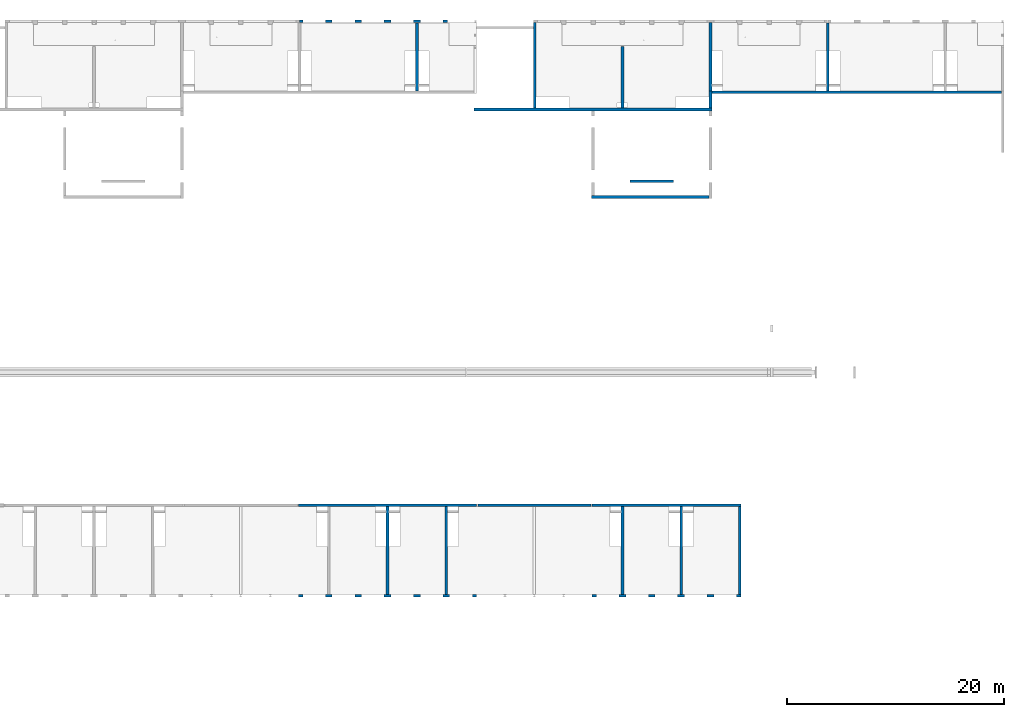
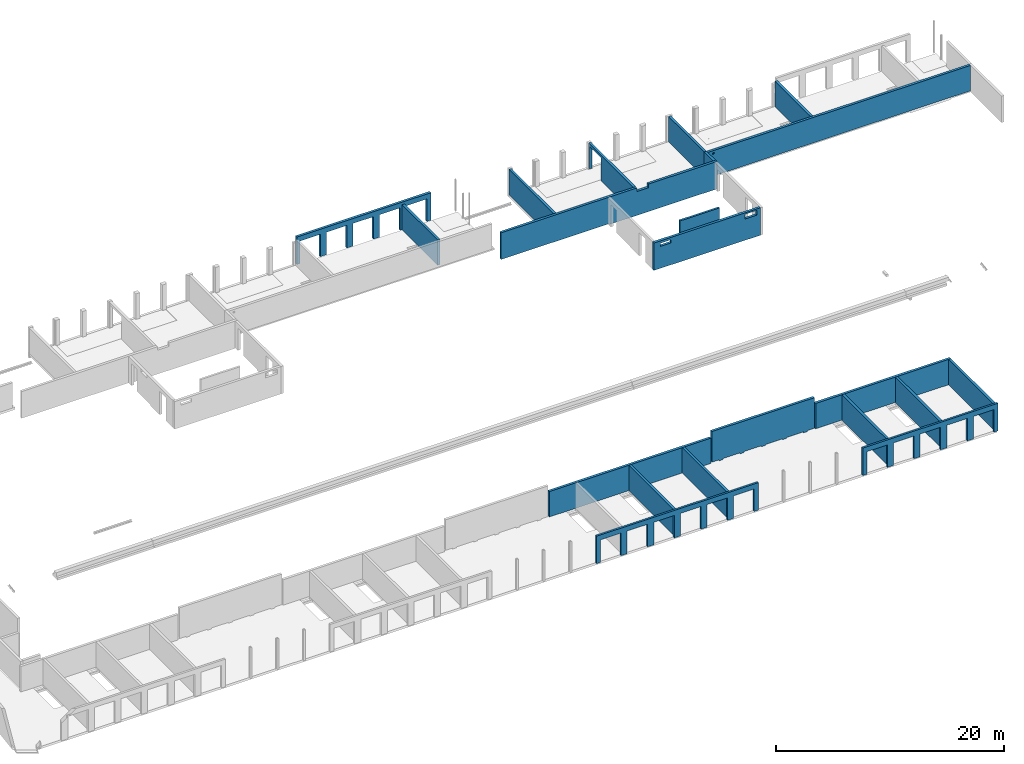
# One storey, part 17 of 22: 21 walls, 31 openings.
"""IFC2X3 building model written with IfcOpenShell, lengths in millimetres."""

from ifc_helpers import new_model, entity, si_unit, converted_unit, derived_unit, direction, frame, frame_2d, origin, origin_2d_with_axis, place, context, subcontext, project, spatial, rectangle, circle, extrude, material, layer, layer_set, layer_usage, type_object, element, save


model = new_model("IFC2X3")

# Units and contexts
model_context = context("Model", 3, precision=0.01, world=origin(), true_north=direction((6.12303176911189e-17, 1.0)))
body_context = subcontext(model_context, "Body", "Model", "MODEL_VIEW")
ifc_project = project(units=[si_unit("LENGTHUNIT", "METRE", prefix="MILLI"), si_unit("AREAUNIT", "SQUARE_METRE"), si_unit("VOLUMEUNIT", "CUBIC_METRE"), converted_unit("PLANEANGLEUNIT", "DEGREE", entity("IfcRatioMeasure", 0.0174532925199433), si_unit("PLANEANGLEUNIT", "RADIAN"), dimensions=[0, 0, 0, 0, 0, 0, 0]), si_unit("MASSUNIT", "GRAM", prefix="KILO"), derived_unit("MASSDENSITYUNIT", [(si_unit("MASSUNIT", "GRAM", prefix="KILO"), 1), (si_unit("LENGTHUNIT", "METRE"), -3)]), si_unit("TIMEUNIT", "SECOND"), si_unit("FREQUENCYUNIT", "HERTZ"), si_unit("THERMODYNAMICTEMPERATUREUNIT", "DEGREE_CELSIUS"), derived_unit("THERMALTRANSMITTANCEUNIT", [(si_unit("MASSUNIT", "GRAM", prefix="KILO"), 1), (si_unit("THERMODYNAMICTEMPERATUREUNIT", "KELVIN"), -1), (si_unit("TIMEUNIT", "SECOND"), -3)]), derived_unit("VOLUMETRICFLOWRATEUNIT", [(si_unit("LENGTHUNIT", "METRE"), 3), (si_unit("TIMEUNIT", "SECOND"), -1)]), si_unit("ELECTRICCURRENTUNIT", "AMPERE"), si_unit("ELECTRICVOLTAGEUNIT", "VOLT"), si_unit("POWERUNIT", "WATT"), si_unit("FORCEUNIT", "NEWTON", prefix="KILO"), si_unit("ILLUMINANCEUNIT", "LUX"), si_unit("LUMINOUSFLUXUNIT", "LUMEN"), si_unit("LUMINOUSINTENSITYUNIT", "CANDELA"), derived_unit("USERDEFINED", [(si_unit("MASSUNIT", "GRAM", prefix="KILO"), -1), (si_unit("LENGTHUNIT", "METRE"), -2), (si_unit("TIMEUNIT", "SECOND"), 3), (si_unit("LUMINOUSFLUXUNIT", "LUMEN"), 1)]), derived_unit("LINEARVELOCITYUNIT", [(si_unit("LENGTHUNIT", "METRE"), 1), (si_unit("TIMEUNIT", "SECOND"), -1)]), si_unit("PRESSUREUNIT", "PASCAL"), derived_unit("USERDEFINED", [(si_unit("LENGTHUNIT", "METRE"), -2), (si_unit("MASSUNIT", "GRAM", prefix="KILO"), 1), (si_unit("TIMEUNIT", "SECOND"), -2)])], contexts=[model_context])

# Site, building, storey
site_placement = place(None, origin())
site = spatial("IfcSite", under=ifc_project, at=site_placement, Name="Default", CompositionType="ELEMENT")
building_placement = place(site_placement, origin())
building = spatial("IfcBuilding", under=site, at=building_placement, Name="niet gebruiken", CompositionType="ELEMENT")
storey_placement = place(building_placement, frame((0.0, 0.0, 9630.0)))
storey = spatial("IfcBuildingStorey", under=building, at=storey_placement, Name="03 derde verdieping", CompositionType="ELEMENT", Elevation=9630.00000000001)

# Walls
ifc_material_1 = material(Name="NLRS_f2_beton ihwg")
ifc_layer_1 = layer(ifc_material_1, 250.0)
ifc_layer_set_1 = layer_set([ifc_layer_1], Name="Basic Wall:NLRS_22.21_WA_beton ihwg d=250_gen")
ifc_layer_usage_1 = layer_usage(ifc_layer_set_1, "AXIS2", "NEGATIVE", 125.0)
wall_type_1 = type_object("IfcWallType", Name="Basic Wall:NLRS_22.21_WA_beton ihwg d=250_gen", PredefinedType="STANDARD", material=ifc_layer_set_1)
wall_1_placement = place(storey_placement, frame((67500.0, 8496.0, -90.0), z_axis=(0.0, 0.0, 1.0), x_axis=(0.0, -1.0, 0.0)))
element("IfcWallStandardCase", 1, at=wall_1_placement, inside=storey, type_object=wall_type_1, material=ifc_layer_usage_1, Name="Basic Wall:NLRS_22.21_WA_beton ihwg d=250_gen", ObjectType="Basic Wall:NLRS_22.21_WA_beton ihwg d=250_gen", context=body_context, shape_type="SweptSolid", body=[
    extrude(rectangle(XDim=8075.99999999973, YDim=249.999999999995, at=frame_2d((4037.99999999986, 0.0), x_axis=(-1.0, 0.0))), origin(), (0.0, 0.0, 1.0), 2720.0),
])
ifc_layer_usage_2 = layer_usage(ifc_layer_set_1, "AXIS2", "NEGATIVE", 125.0)
wall_2_placement = place(storey_placement, frame((72900.0, 8496.0, -90.0), z_axis=(0.0, 0.0, 1.0), x_axis=(0.0, -1.0, 0.0)))
element("IfcWallStandardCase", 2, at=wall_2_placement, inside=storey, type_object=wall_type_1, material=ifc_layer_usage_2, Name="Basic Wall:NLRS_22.21_WA_beton ihwg d=250_gen", ObjectType="Basic Wall:NLRS_22.21_WA_beton ihwg d=250_gen", context=body_context, shape_type="SweptSolid", body=[
    extrude(rectangle(XDim=8075.99999999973, YDim=249.999999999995, at=frame_2d((4037.99999999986, 0.0), x_axis=(-1.0, 0.0))), origin(), (0.0, 0.0, 1.0), 2720.0),
])
ifc_layer_usage_3 = layer_usage(ifc_layer_set_1, "AXIS2", "NEGATIVE", 125.0)
wall_3_placement = place(storey_placement, frame((89100.0, 8496.0, -90.0), z_axis=(0.0, 0.0, 1.0), x_axis=(0.0, -1.0, 0.0)))
element("IfcWallStandardCase", 3, at=wall_3_placement, inside=storey, type_object=wall_type_1, material=ifc_layer_usage_3, Name="Basic Wall:NLRS_22.21_WA_beton ihwg d=250_gen", ObjectType="Basic Wall:NLRS_22.21_WA_beton ihwg d=250_gen", context=body_context, shape_type="SweptSolid", body=[
    extrude(rectangle(XDim=8075.99999999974, YDim=250.000000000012, at=frame_2d((4037.99999999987, 0.0), x_axis=(-1.0, 0.0))), origin(), (0.0, 0.0, 1.0), 2720.0),
])
ifc_layer_usage_4 = layer_usage(ifc_layer_set_1, "AXIS2", "NEGATIVE", 125.0)
wall_4_placement = place(storey_placement, frame((94500.0, 8496.0, -90.0), z_axis=(0.0, 0.0, 1.0), x_axis=(0.0, -1.0, 0.0)))
element("IfcWallStandardCase", 4, at=wall_4_placement, inside=storey, type_object=wall_type_1, material=ifc_layer_usage_4, Name="Basic Wall:NLRS_22.21_WA_beton ihwg d=250_gen", ObjectType="Basic Wall:NLRS_22.21_WA_beton ihwg d=250_gen", context=body_context, shape_type="SweptSolid", body=[
    extrude(rectangle(XDim=8075.99999999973, YDim=250.000000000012, at=frame_2d((4037.99999999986, 0.0), x_axis=(-1.0, 0.0))), origin(), (0.0, 0.0, 1.0), 2720.0),
])
ifc_layer_usage_5 = layer_usage(ifc_layer_set_1, "AXIS2", "NEGATIVE", 125.0)
wall_5_placement = place(storey_placement, frame((99900.0, 8496.0, -90.0), z_axis=(0.0, 0.0, 1.0), x_axis=(0.0, -1.0, 0.0)))
element("IfcWallStandardCase", 5, at=wall_5_placement, inside=storey, type_object=wall_type_1, material=ifc_layer_usage_5, Name="Basic Wall:NLRS_22.21_WA_beton ihwg d=250_gen", ObjectType="Basic Wall:NLRS_22.21_WA_beton ihwg d=250_gen", context=body_context, shape_type="SweptSolid", body=[
    extrude(rectangle(XDim=8075.99999999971, YDim=250.000000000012, at=frame_2d((4037.99999999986, 0.0), x_axis=(-1.0, 0.0))), origin(), (0.0, 0.0, 1.0), 2720.0),
])
ifc_layer_usage_6 = layer_usage(ifc_layer_set_1, "AXIS2", "NEGATIVE", 125.0)
wall_6_placement = place(storey_placement, frame((70200.0, 46746.0, -90.0), z_axis=(0.0, 0.0, 1.0), x_axis=(0.0, 1.0, 0.0)))
element("IfcWallStandardCase", 6, at=wall_6_placement, inside=storey, type_object=wall_type_1, material=ifc_layer_usage_6, Name="Basic Wall:NLRS_22.21_WA_beton ihwg d=250_gen", ObjectType="Basic Wall:NLRS_22.21_WA_beton ihwg d=250_gen", context=body_context, shape_type="SweptSolid", body=[
    extrude(rectangle(XDim=6239.99999999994, YDim=249.999999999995, at=frame_2d((3119.99999999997, 1.06581410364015e-12), x_axis=(-1.0, 0.0))), origin(), (0.0, 0.0, 1.0), 2720.0),
])

# Wall, opening
ifc_layer_usage_7 = layer_usage(ifc_layer_set_1, "AXIS2", "NEGATIVE", 125.0)
wall_7_placement = place(storey_placement, frame((123950.0, 46621.0, -90.0), z_axis=(0.0, 0.0, 1.0), x_axis=(-1.0, 0.0, 0.0)))
wall_7 = element("IfcWallStandardCase", 7, at=wall_7_placement, inside=storey, type_object=wall_type_1, material=ifc_layer_usage_7, Name="Basic Wall:NLRS_22.21_WA_beton ihwg d=250_gen", ObjectType="Basic Wall:NLRS_22.21_WA_beton ihwg d=250_gen", context=body_context, shape_type="SweptSolid", body=[
    extrude(rectangle(XDim=26625.0000000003, YDim=249.999999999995, at=frame_2d((13312.5000000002, -1.24344978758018e-12), x_axis=(-1.0, 0.0))), origin(), (0.0, 0.0, 1.0), 2720.0),
])
opening_1_placement = place(wall_7_placement, origin())
element("IfcOpeningElement", 8, at=opening_1_placement, cuts=wall_7, Name="Basic Wall:NLRS_22.21_WA_beton ihwg d=250_gen", ObjectType="Opening", context=body_context, shape_type="SweptSolid", body=[
    extrude(circle(Radius=100.0, at=origin_2d_with_axis()), frame((26075.0, -125.0, 2430.0), z_axis=(0.0, 1.0, 0.0), x_axis=(-1.0, 0.0, 0.0)), (0.0, 0.0, 1.0), 250.000000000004),
])

# Wall
ifc_layer_usage_8 = layer_usage(ifc_layer_set_1, "AXIS2", "NEGATIVE", 125.0)
wall_8_placement = place(storey_placement, frame((59320.0, 8621.0, -90.0)))
element("IfcWallStandardCase", 9, at=wall_8_placement, inside=storey, type_object=wall_type_1, material=ifc_layer_usage_8, Name="Basic Wall:NLRS_22.21_WA_beton ihwg d=250_gen", ObjectType="Basic Wall:NLRS_22.21_WA_beton ihwg d=250_gen", context=body_context, shape_type="SweptSolid", body=[
    extrude(rectangle(XDim=16360.0000000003, YDim=249.999999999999, at=frame_2d((8180.00000000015, 0.0), x_axis=(-1.0, 0.0))), origin(), (0.0, 0.0, 1.0), 2720.0),
])

# Wall, openings
ifc_layer_usage_9 = layer_usage(ifc_layer_set_1, "AXIS2", "NEGATIVE", 125.0)
wall_9_placement = place(storey_placement, frame((75800.0, 8621.0, -90.0)))
wall_9 = element("IfcWallStandardCase", 10, at=wall_9_placement, inside=storey, type_object=wall_type_1, material=ifc_layer_usage_9, Name="Basic Wall:NLRS_22.21_WA_beton ihwg d=250_gen", ObjectType="Basic Wall:NLRS_22.21_WA_beton ihwg d=250_gen", context=body_context, shape_type="SweptSolid", body=[
    extrude(rectangle(XDim=10399.9999999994, YDim=249.999999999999, at=frame_2d((5199.99999999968, 0.0), x_axis=(-1.0, 0.0))), origin(), (0.0, 0.0, 1.0), 3380.0),
])
opening_2_placement = place(wall_9_placement, origin())
element("IfcOpeningElement", 11, at=opening_2_placement, cuts=wall_9, Name="Basic Wall:NLRS_22.21_WA_beton ihwg d=250_gen", ObjectType="Opening", context=body_context, shape_type="SweptSolid", body=[
    extrude(rectangle(XDim=100.000000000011, YDim=699.999999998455, at=frame_2d((0.0, 5.43565192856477e-13), x_axis=(0.0, 1.0))), frame((10050.0, 125.0, 50.0), z_axis=(0.0, -1.0, 0.0), x_axis=(-1.0, 0.0, 0.0)), (0.0, 0.0, 1.0), 250.0),
])
opening_3_placement = place(wall_9_placement, origin())
element("IfcOpeningElement", 12, at=opening_3_placement, cuts=wall_9, Name="Basic Wall:NLRS_22.21_WA_beton ihwg d=250_gen", ObjectType="Opening", context=body_context, shape_type="SweptSolid", body=[
    extrude(rectangle(XDim=100.000000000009, YDim=1749.99999999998, at=frame_2d((-2.16715534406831e-12, 0.0), x_axis=(1.0, 0.0))), frame((8425.0, 125.0, 50.0), z_axis=(0.0, -1.0, 0.0), x_axis=(0.0, 0.0, 1.0)), (0.0, 0.0, 1.0), 250.0),
])
opening_4_placement = place(wall_9_placement, origin())
element("IfcOpeningElement", 13, at=opening_4_placement, cuts=wall_9, Name="Basic Wall:NLRS_22.21_WA_beton ihwg d=250_gen", ObjectType="Opening", context=body_context, shape_type="SweptSolid", body=[
    extrude(rectangle(XDim=100.000000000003, YDim=1749.99999999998, at=frame_2d((-1.08002495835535e-12, 0.0), x_axis=(1.0, 0.0))), frame((6275.0, 125.0, 50.0), z_axis=(0.0, -1.0, 0.0), x_axis=(0.0, 0.0, 1.0)), (0.0, 0.0, 1.0), 250.0),
])
opening_5_placement = place(wall_9_placement, origin())
element("IfcOpeningElement", 14, at=opening_5_placement, cuts=wall_9, Name="Basic Wall:NLRS_22.21_WA_beton ihwg d=250_gen", ObjectType="Opening", context=body_context, shape_type="SweptSolid", body=[
    extrude(rectangle(XDim=100.000000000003, YDim=1750.0, at=frame_2d((-1.08002495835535e-12, 8.64019966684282e-12), x_axis=(1.0, 0.0))), frame((4125.0, 125.0, 50.0), z_axis=(0.0, -1.0, 0.0), x_axis=(0.0, 0.0, 1.0)), (0.0, 0.0, 1.0), 250.0),
])
opening_6_placement = place(wall_9_placement, origin())
element("IfcOpeningElement", 15, at=opening_6_placement, cuts=wall_9, Name="Basic Wall:NLRS_22.21_WA_beton ihwg d=250_gen", ObjectType="Opening", context=body_context, shape_type="SweptSolid", body=[
    extrude(rectangle(XDim=100.000000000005, YDim=1749.99999999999, at=frame_2d((5.43565192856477e-13, 4.32009983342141e-12), x_axis=(1.0, 0.0))), frame((1975.0, 125.0, 50.0), z_axis=(0.0, -1.0, 0.0), x_axis=(0.0, 0.0, 1.0)), (0.0, 0.0, 1.0), 250.0),
])
opening_7_placement = place(wall_9_placement, origin())
element("IfcOpeningElement", 16, at=opening_7_placement, cuts=wall_9, Name="Basic Wall:NLRS_22.21_WA_beton ihwg d=250_gen", ObjectType="Opening", context=body_context, shape_type="SweptSolid", body=[
    extrude(rectangle(XDim=100.000000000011, YDim=700.000000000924, at=frame_2d((-5.43565192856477e-13, -4.32009983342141e-12), x_axis=(1.0, 0.0))), frame((350.0, 125.0, 50.0), z_axis=(0.0, -1.0, 0.0), x_axis=(0.0, 0.0, 1.0)), (0.0, 0.0, 1.0), 250.0),
])

# Walls
ifc_layer_usage_10 = layer_usage(ifc_layer_set_1, "AXIS2", "NEGATIVE", 125.0)
wall_10_placement = place(storey_placement, frame((86320.0, 8621.0, -90.0)))
element("IfcWallStandardCase", 17, at=wall_10_placement, inside=storey, type_object=wall_type_1, material=ifc_layer_usage_10, Name="Basic Wall:NLRS_22.21_WA_beton ihwg d=250_gen", ObjectType="Basic Wall:NLRS_22.21_WA_beton ihwg d=250_gen", context=body_context, shape_type="SweptSolid", body=[
    extrude(rectangle(XDim=13705.0000000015, YDim=249.999999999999, at=frame_2d((6852.50000000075, 0.0), x_axis=(-1.0, 0.0))), origin(), (0.0, 0.0, 1.0), 2720.0),
])
ifc_layer_usage_11 = layer_usage(ifc_layer_set_1, "AXIS2", "NEGATIVE", 125.0)
wall_11_placement = place(storey_placement, frame((108000.0, 46746.0, -90.0), z_axis=(0.0, 0.0, 1.0), x_axis=(0.0, 1.0, 0.0)))
element("IfcWallStandardCase", 18, at=wall_11_placement, inside=storey, type_object=wall_type_1, material=ifc_layer_usage_11, Name="Basic Wall:NLRS_22.21_WA_beton ihwg d=250_gen", ObjectType="Basic Wall:NLRS_22.21_WA_beton ihwg d=250_gen", context=body_context, shape_type="SweptSolid", body=[
    extrude(rectangle(XDim=6239.99999999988, YDim=250.000000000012, at=frame_2d((3119.99999999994, -3.26849658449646e-12), x_axis=(-1.0, 0.0))), origin(), (0.0, 0.0, 1.0), 2720.0),
])

# Wall, opening
ifc_layer_usage_12 = layer_usage(ifc_layer_set_1, "AXIS2", "NEGATIVE", 125.0)
wall_12_placement = place(storey_placement, frame((89100.0, 45156.0, -90.0), z_axis=(0.0, 0.0, 1.0), x_axis=(0.0, 1.0, 0.0)))
wall_12 = element("IfcWallStandardCase", 19, at=wall_12_placement, inside=storey, type_object=wall_type_1, material=ifc_layer_usage_12, Name="Basic Wall:NLRS_22.21_WA_beton ihwg d=250_gen", ObjectType="Basic Wall:NLRS_22.21_WA_beton ihwg d=250_gen", context=body_context, shape_type="SweptSolid", body=[
    extrude(rectangle(XDim=7850.00000000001, YDim=250.000000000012, at=frame_2d((3925.0, -1.86872739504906e-12), x_axis=(-1.0, 0.0))), origin(), (0.0, 0.0, 1.0), 2720.0),
])
opening_8_placement = place(wall_12_placement, origin())
element("IfcOpeningElement", 20, at=opening_8_placement, cuts=wall_12, Name="Basic Wall:NLRS_22.21_WA_beton ihwg d=250_gen", ObjectType="Opening", context=body_context, shape_type="SweptSolid", body=[
    extrude(rectangle(XDim=2440.0, YDim=2050.0, at=frame_2d((0.0, 5.6843418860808e-13), x_axis=(0.0, 1.0))), frame((6665.0, -1399.0, 1220.0), z_axis=(0.0, 1.0, 0.0), x_axis=(-1.0, 0.0, 0.0)), (0.0, 0.0, 1.0), 3048.0),
])

# Wall, openings
ifc_layer_usage_13 = layer_usage(ifc_layer_set_1, "AXIS2", "NEGATIVE", 125.0)
wall_13_placement = place(storey_placement, frame((97325.0, 45031.0, -310.0), z_axis=(0.0, 0.0, 1.0), x_axis=(-1.0, 0.0, 0.0)))
wall_13 = element("IfcWallStandardCase", 21, at=wall_13_placement, inside=storey, type_object=wall_type_1, material=ifc_layer_usage_13, Name="Basic Wall:NLRS_22.21_WA_beton ihwg d=250_gen", ObjectType="Basic Wall:NLRS_22.21_WA_beton ihwg d=250_gen", context=body_context, shape_type="SweptSolid", body=[
    extrude(rectangle(XDim=21874.9999999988, YDim=249.999999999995, at=frame_2d((10937.4999999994, -3.90798504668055e-13), x_axis=(-1.0, 0.0))), origin(), (0.0, 0.0, 1.0), 2939.99999999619),
])
opening_9_placement = place(storey_placement, frame((97325.0, 45031.0, -310.0), z_axis=(0.0, 0.0, 1.0), x_axis=(-1.0, 0.0, 0.0)))
element("IfcOpeningElement", 22, at=opening_9_placement, cuts=wall_13, Name="Basic Wall:NLRS_22.21_WA_beton ihwg d=250_gen:1", ObjectType="Opening", context=body_context, shape_type="SweptSolid", body=[
    extrude(rectangle(XDim=40.0000000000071, YDim=20.0000000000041, at=frame_2d((-4.33164615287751e-12, -5.41788836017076e-13), x_axis=(0.0, 1.0))), frame((8120.0, -115.0, 20.0), z_axis=(-1.0, 0.0, 0.0), x_axis=(0.0, 1.0, 0.0)), (0.0, 0.0, 1.0), 4770.00000000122),
])
opening_10_placement = place(wall_13_placement, origin())
element("IfcOpeningElement", 23, at=opening_10_placement, cuts=wall_13, Name="Basic Wall:NLRS_22.21_WA_beton ihwg d=250_gen", ObjectType="Opening", context=body_context, shape_type="SweptSolid", body=[
    extrude(rectangle(XDim=500.000000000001, YDim=1200.0, at=origin_2d_with_axis()), frame((7525.0, -125.0, 2805.0), z_axis=(0.0, 1.0, 0.0), x_axis=(0.0, 0.0, -1.0)), (0.0, 0.0, 1.0), 249.999999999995),
])
opening_11_placement = place(wall_13_placement, origin())
element("IfcOpeningElement", 24, at=opening_11_placement, cuts=wall_13, Name="Basic Wall:NLRS_22.21_WA_beton ihwg d=250_gen", ObjectType="Recess", context=body_context, shape_type="SweptSolid", body=[
    extrude(rectangle(XDim=890.0, YDim=200.000000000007, at=frame_2d((-5.40012479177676e-13, 0.0), x_axis=(1.0, 0.0))), frame((9710.0, -125.0, 665.0), z_axis=(0.0, 1.0, 0.0), x_axis=(0.0, 0.0, -1.0)), (0.0, 0.0, 1.0), 40.0000000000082),
])
opening_12_placement = place(wall_13_placement, origin())
element("IfcOpeningElement", 25, at=opening_12_placement, cuts=wall_13, Name="Basic Wall:NLRS_22.21_WA_beton ihwg d=250_gen", ObjectType="Recess", context=body_context, shape_type="SweptSolid", body=[
    extrude(rectangle(XDim=890.0, YDim=200.000000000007, at=frame_2d((-5.40012479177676e-13, 0.0), x_axis=(1.0, 0.0))), frame((5960.0, -125.0, 665.0), z_axis=(0.0, 1.0, 0.0), x_axis=(0.0, 0.0, -1.0)), (0.0, 0.0, 1.0), 40.0000000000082),
])
opening_13_placement = place(wall_13_placement, origin())
element("IfcOpeningElement", 26, at=opening_13_placement, cuts=wall_13, Name="Basic Wall:NLRS_22.21_WA_beton ihwg d=250_gen", ObjectType="Opening", context=body_context, shape_type="SweptSolid", body=[
    extrude(rectangle(XDim=89.9999999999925, YDim=10949.9999999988, at=frame_2d((4.54747350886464e-12, 0.0), x_axis=(0.0, 1.0))), frame((16400.0, 125.0, 45.0), z_axis=(0.0, -1.0, 0.0), x_axis=(1.0, 0.0, 0.0)), (0.0, 0.0, 1.0), 250.0),
])

ifc_layer_usage_14 = layer_usage(ifc_layer_set_1, "AXIS2", "NEGATIVE", 125.0)
wall_14_placement = place(storey_placement, frame((97075.0, 36981.0, -310.0), z_axis=(0.0, 0.0, 1.0), x_axis=(-1.0, 0.0, 0.0)))
wall_14 = element("IfcWallStandardCase", 27, at=wall_14_placement, inside=storey, type_object=wall_type_1, material=ifc_layer_usage_14, Name="Basic Wall:NLRS_22.21_WA_beton ihwg d=250_gen", ObjectType="Basic Wall:NLRS_22.21_WA_beton ihwg d=250_gen", context=body_context, shape_type="SweptSolid", body=[
    extrude(rectangle(XDim=10800.0, YDim=250.000000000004, at=frame_2d((5399.99999999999, -5.47117906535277e-13), x_axis=(-1.0, 0.0))), origin(), (0.0, 0.0, 1.0), 2939.99999999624),
])
opening_14_placement = place(wall_14_placement, origin())
element("IfcOpeningElement", 28, at=opening_14_placement, cuts=wall_14, Name="Basic Wall:NLRS_22.21_WA_beton ihwg d=250_gen", ObjectType="Opening", context=body_context, shape_type="SweptSolid", body=[
    extrude(rectangle(XDim=500.000000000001, YDim=1200.0, at=origin_2d_with_axis()), frame((945.0, -125.0, 2525.0), z_axis=(0.0, 1.0, 0.0), x_axis=(0.0, 0.0, -1.0)), (0.0, 0.0, 1.0), 250.000000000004),
])
opening_15_placement = place(wall_14_placement, origin())
element("IfcOpeningElement", 29, at=opening_15_placement, cuts=wall_14, Name="Basic Wall:NLRS_22.21_WA_beton ihwg d=250_gen", ObjectType="Opening", context=body_context, shape_type="SweptSolid", body=[
    extrude(rectangle(XDim=350.000000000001, YDim=1099.99999999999, at=frame_2d((-1.08002495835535e-12, 0.0), x_axis=(1.0, 0.0))), frame((9590.0, -125.0, 2515.0), z_axis=(0.0, 1.0, 0.0), x_axis=(0.0, 0.0, -1.0)), (0.0, 0.0, 1.0), 250.000000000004),
])

# Walls
ifc_layer_usage_15 = layer_usage(ifc_layer_set_1, "AXIS2", "NEGATIVE", 125.0)
wall_15_placement = place(storey_placement, frame((97200.0, 46746.0, -90.0), z_axis=(0.0, 0.0, 1.0), x_axis=(0.0, 1.0, 0.0)))
element("IfcWallStandardCase", 30, at=wall_15_placement, inside=storey, type_object=wall_type_1, material=ifc_layer_usage_15, Name="Basic Wall:NLRS_22.21_WA_beton ihwg d=250_gen", ObjectType="Basic Wall:NLRS_22.21_WA_beton ihwg d=250_gen", context=body_context, shape_type="SweptSolid", body=[
    extrude(rectangle(XDim=6259.99999999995, YDim=250.000000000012, at=frame_2d((3129.99999999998, -3.24718030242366e-12), x_axis=(-1.0, 0.0))), origin(), (0.0, 0.0, 1.0), 2719.99999999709),
])
ifc_layer_usage_16 = layer_usage(ifc_layer_set_1, "AXIS2", "NEGATIVE", 125.0)
wall_16_placement = place(storey_placement, frame((97200.0, 45156.0, -90.0), z_axis=(0.0, 0.0, 1.0), x_axis=(0.0, 1.0, 0.0)))
element("IfcWallStandardCase", 31, at=wall_16_placement, inside=storey, type_object=wall_type_1, material=ifc_layer_usage_16, Name="Basic Wall:NLRS_22.21_WA_beton ihwg d=250_gen", ObjectType="Basic Wall:NLRS_22.21_WA_beton ihwg d=250_gen", context=body_context, shape_type="SweptSolid", body=[
    extrude(rectangle(XDim=1590.00000000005, YDim=250.000000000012, at=frame_2d((795.000000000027, 1.37845290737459e-12), x_axis=(-1.0, 0.0))), origin(), (0.0, 0.0, 1.0), 2719.99999999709),
])

# Wall, openings
ifc_material_2 = material(Name="NLRS_f2_beton prefab")
ifc_layer_2 = layer(ifc_material_2, 250.0)
ifc_layer_set_2 = layer_set([ifc_layer_2], Name="Basic Wall:NLRS_21.21_WA_beton prefab d=250_gen")
ifc_layer_usage_17 = layer_usage(ifc_layer_set_2, "AXIS2", "NEGATIVE", 125.0)
wall_type_2 = type_object("IfcWallType", Name="Basic Wall:NLRS_21.21_WA_beton prefab d=250_gen", PredefinedType="STANDARD", material=ifc_layer_set_2)
wall_17_placement = place(storey_placement, frame((59410.0, 53131.0, -70.0)))
wall_17 = element("IfcWallStandardCase", 32, at=wall_17_placement, inside=storey, type_object=wall_type_2, material=ifc_layer_usage_17, Name="Basic Wall:NLRS_21.21_WA_beton prefab d=250_gen", ObjectType="Basic Wall:NLRS_21.21_WA_beton prefab d=250_gen", context=body_context, shape_type="SweptSolid", body=[
    extrude(rectangle(XDim=13590.0009601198, YDim=249.999999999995, at=frame_2d((6795.00048005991, -1.58451030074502e-12), x_axis=(-1.0, 0.0))), origin(), (0.0, 0.0, 1.0), 2950.00000000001),
])
opening_16_placement = place(wall_17_placement, origin())
element("IfcOpeningElement", 33, at=opening_16_placement, cuts=wall_17, Name="Basic Wall:NLRS_21.21_WA_beton prefab d=250_gen", ObjectType="Opening", context=body_context, shape_type="SweptSolid", body=[
    extrude(rectangle(XDim=2440.0, YDim=2080.0, at=frame_2d((1.13686837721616e-12, 4.32009983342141e-12), x_axis=(1.0, 0.0))), frame((1340.0009601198, -1649.0, 1200.0), z_axis=(0.0, 1.0, 0.0), x_axis=(0.0, 0.0, 1.0)), (0.0, 0.0, 1.0), 3048.0),
])
opening_17_placement = place(wall_17_placement, origin())
element("IfcOpeningElement", 34, at=opening_17_placement, cuts=wall_17, Name="Basic Wall:NLRS_21.21_WA_beton prefab d=250_gen", ObjectType="Opening", context=body_context, shape_type="SweptSolid", body=[
    extrude(rectangle(XDim=2440.0, YDim=2080.0, at=frame_2d((1.13686837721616e-12, -4.32009983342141e-12), x_axis=(1.0, 0.0))), frame((4040.0009601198, -1649.0, 1200.0), z_axis=(0.0, 1.0, 0.0), x_axis=(0.0, 0.0, 1.0)), (0.0, 0.0, 1.0), 3048.0),
])
opening_18_placement = place(wall_17_placement, origin())
element("IfcOpeningElement", 35, at=opening_18_placement, cuts=wall_17, Name="Basic Wall:NLRS_21.21_WA_beton prefab d=250_gen", ObjectType="Opening", context=body_context, shape_type="SweptSolid", body=[
    extrude(rectangle(XDim=2440.0, YDim=2080.0, at=frame_2d((1.13686837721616e-12, -4.32009983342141e-12), x_axis=(1.0, 0.0))), frame((6740.00096011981, -1649.0, 1200.0), z_axis=(0.0, 1.0, 0.0), x_axis=(0.0, 0.0, 1.0)), (0.0, 0.0, 1.0), 3048.0),
])
opening_19_placement = place(wall_17_placement, origin())
element("IfcOpeningElement", 36, at=opening_19_placement, cuts=wall_17, Name="Basic Wall:NLRS_21.21_WA_beton prefab d=250_gen", ObjectType="Opening", context=body_context, shape_type="SweptSolid", body=[
    extrude(rectangle(XDim=2440.0, YDim=2080.0, at=frame_2d((1.13686837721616e-12, 4.32009983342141e-12), x_axis=(1.0, 0.0))), frame((9440.00096011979, -1649.0, 1200.0), z_axis=(0.0, 1.0, 0.0), x_axis=(0.0, 0.0, 1.0)), (0.0, 0.0, 1.0), 3048.0),
])
opening_20_placement = place(wall_17_placement, origin())
element("IfcOpeningElement", 37, at=opening_20_placement, cuts=wall_17, Name="Basic Wall:NLRS_21.21_WA_beton prefab d=250_gen", ObjectType="Opening", context=body_context, shape_type="SweptSolid", body=[
    extrude(rectangle(XDim=2440.0, YDim=2080.0, at=frame_2d((1.13686837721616e-12, -4.32009983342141e-12), x_axis=(1.0, 0.0))), frame((12140.0009601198, -1649.0, 1200.0), z_axis=(0.0, 1.0, 0.0), x_axis=(0.0, 0.0, 1.0)), (0.0, 0.0, 1.0), 3048.0),
])

ifc_layer_3 = layer(ifc_material_2, 200.0)
ifc_layer_set_3 = layer_set([ifc_layer_3], Name="Basic Wall:NLRS_21.21_WA_beton prefab d=200_gen")
ifc_layer_usage_18 = layer_usage(ifc_layer_set_3, "AXIS2", "NEGATIVE", 100.0)
wall_type_3 = type_object("IfcWallType", Name="Basic Wall:NLRS_21.21_WA_beton prefab d=200_gen", PredefinedType="STANDARD", material=ifc_layer_set_3)
wall_18_placement = place(storey_placement, frame((59300.0, 300.0, -70.0)))
wall_18 = element("IfcWallStandardCase", 38, at=wall_18_placement, inside=storey, type_object=wall_type_3, material=ifc_layer_usage_18, Name="Basic Wall:NLRS_21.21_WA_beton prefab d=200_gen", ObjectType="Basic Wall:NLRS_21.21_WA_beton prefab d=200_gen", context=body_context, shape_type="SweptSolid", body=[
    extrude(rectangle(XDim=16400.0, YDim=200.0, at=frame_2d((8200.0, -1.4210854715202e-14), x_axis=(-1.0, 0.0))), origin(), (0.0, 0.0, 1.0), 2950.00000000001),
])
opening_21_placement = place(wall_18_placement, origin())
element("IfcOpeningElement", 39, at=opening_21_placement, cuts=wall_18, Name="Basic Wall:NLRS_21.21_WA_beton prefab d=200_gen", ObjectType="Opening", context=body_context, shape_type="SweptSolid", body=[
    extrude(rectangle(XDim=2440.0, YDim=2080.0, at=frame_2d((0.0, -1.70530256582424e-12), x_axis=(0.0, 1.0))), frame((14950.0, -1424.0, 1200.0), z_axis=(0.0, 1.0, 0.0), x_axis=(-1.0, 0.0, 0.0)), (0.0, 0.0, 1.0), 3048.0),
])
opening_22_placement = place(wall_18_placement, origin())
element("IfcOpeningElement", 40, at=opening_22_placement, cuts=wall_18, Name="Basic Wall:NLRS_21.21_WA_beton prefab d=200_gen", ObjectType="Opening", context=body_context, shape_type="SweptSolid", body=[
    extrude(rectangle(XDim=2440.0, YDim=2080.0, at=frame_2d((0.0, -1.70530256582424e-12), x_axis=(0.0, 1.0))), frame((12250.0, -1424.0, 1200.0), z_axis=(0.0, 1.0, 0.0), x_axis=(-1.0, 0.0, 0.0)), (0.0, 0.0, 1.0), 3048.0),
])
opening_23_placement = place(wall_18_placement, origin())
element("IfcOpeningElement", 41, at=opening_23_placement, cuts=wall_18, Name="Basic Wall:NLRS_21.21_WA_beton prefab d=200_gen", ObjectType="Opening", context=body_context, shape_type="SweptSolid", body=[
    extrude(rectangle(XDim=2440.0, YDim=2080.0, at=frame_2d((0.0, -1.70530256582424e-12), x_axis=(0.0, 1.0))), frame((9550.0, -1424.0, 1200.0), z_axis=(0.0, 1.0, 0.0), x_axis=(-1.0, 0.0, 0.0)), (0.0, 0.0, 1.0), 3048.0),
])
opening_24_placement = place(wall_18_placement, origin())
element("IfcOpeningElement", 42, at=opening_24_placement, cuts=wall_18, Name="Basic Wall:NLRS_21.21_WA_beton prefab d=200_gen", ObjectType="Opening", context=body_context, shape_type="SweptSolid", body=[
    extrude(rectangle(XDim=2440.0, YDim=2080.0, at=frame_2d((0.0, -1.70530256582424e-12), x_axis=(0.0, 1.0))), frame((6850.0, -1424.0, 1200.0), z_axis=(0.0, 1.0, 0.0), x_axis=(-1.0, 0.0, 0.0)), (0.0, 0.0, 1.0), 3048.0),
])
opening_25_placement = place(wall_18_placement, origin())
element("IfcOpeningElement", 43, at=opening_25_placement, cuts=wall_18, Name="Basic Wall:NLRS_21.21_WA_beton prefab d=200_gen", ObjectType="Opening", context=body_context, shape_type="SweptSolid", body=[
    extrude(rectangle(XDim=2440.0, YDim=2080.0, at=frame_2d((0.0, -1.70530256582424e-12), x_axis=(0.0, 1.0))), frame((4150.0, -1424.0, 1200.0), z_axis=(0.0, 1.0, 0.0), x_axis=(-1.0, 0.0, 0.0)), (0.0, 0.0, 1.0), 3048.0),
])
opening_26_placement = place(wall_18_placement, origin())
element("IfcOpeningElement", 44, at=opening_26_placement, cuts=wall_18, Name="Basic Wall:NLRS_21.21_WA_beton prefab d=200_gen", ObjectType="Opening", context=body_context, shape_type="SweptSolid", body=[
    extrude(rectangle(XDim=2440.0, YDim=2080.0, at=frame_2d((8.64019966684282e-12, -1.70530256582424e-12), x_axis=(0.0, 1.0))), frame((1450.0, -1424.0, 1200.0), z_axis=(0.0, 1.0, 0.0), x_axis=(-1.0, 0.0, 0.0)), (0.0, 0.0, 1.0), 3048.0),
])

ifc_layer_usage_19 = layer_usage(ifc_layer_set_3, "AXIS2", "NEGATIVE", 100.0)
wall_19_placement = place(storey_placement, frame((86300.0, 300.0, -70.0)))
wall_19 = element("IfcWallStandardCase", 45, at=wall_19_placement, inside=storey, type_object=wall_type_3, material=ifc_layer_usage_19, Name="Basic Wall:NLRS_21.21_WA_beton prefab d=200_gen", ObjectType="Basic Wall:NLRS_21.21_WA_beton prefab d=200_gen", context=body_context, shape_type="SweptSolid", body=[
    extrude(rectangle(XDim=13725.0000000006, YDim=200.0, at=frame_2d((6862.50000000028, -1.4210854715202e-14), x_axis=(-1.0, 0.0))), origin(), (0.0, 0.0, 1.0), 2950.00000000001),
])
opening_27_placement = place(wall_19_placement, origin())
element("IfcOpeningElement", 46, at=opening_27_placement, cuts=wall_19, Name="Basic Wall:NLRS_21.21_WA_beton prefab d=200_gen", ObjectType="Opening", context=body_context, shape_type="SweptSolid", body=[
    extrude(rectangle(XDim=2440.0, YDim=2080.0, at=frame_2d((-8.64019966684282e-12, -1.70530256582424e-12), x_axis=(0.0, 1.0))), frame((12250.0, -1424.0, 1200.0), z_axis=(0.0, 1.0, 0.0), x_axis=(-1.0, 0.0, 0.0)), (0.0, 0.0, 1.0), 3048.0),
])
opening_28_placement = place(wall_19_placement, origin())
element("IfcOpeningElement", 47, at=opening_28_placement, cuts=wall_19, Name="Basic Wall:NLRS_21.21_WA_beton prefab d=200_gen", ObjectType="Opening", context=body_context, shape_type="SweptSolid", body=[
    extrude(rectangle(XDim=2440.0, YDim=2080.0, at=frame_2d((-8.64019966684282e-12, -1.70530256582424e-12), x_axis=(0.0, 1.0))), frame((9550.0, -1424.0, 1200.0), z_axis=(0.0, 1.0, 0.0), x_axis=(-1.0, 0.0, 0.0)), (0.0, 0.0, 1.0), 3048.0),
])
opening_29_placement = place(wall_19_placement, origin())
element("IfcOpeningElement", 48, at=opening_29_placement, cuts=wall_19, Name="Basic Wall:NLRS_21.21_WA_beton prefab d=200_gen", ObjectType="Opening", context=body_context, shape_type="SweptSolid", body=[
    extrude(rectangle(XDim=2440.0, YDim=2080.0, at=frame_2d((-8.64019966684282e-12, -1.70530256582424e-12), x_axis=(0.0, 1.0))), frame((6850.0, -1424.0, 1200.0), z_axis=(0.0, 1.0, 0.0), x_axis=(-1.0, 0.0, 0.0)), (0.0, 0.0, 1.0), 3048.0),
])
opening_30_placement = place(wall_19_placement, origin())
element("IfcOpeningElement", 49, at=opening_30_placement, cuts=wall_19, Name="Basic Wall:NLRS_21.21_WA_beton prefab d=200_gen", ObjectType="Opening", context=body_context, shape_type="SweptSolid", body=[
    extrude(rectangle(XDim=2440.0, YDim=2080.0, at=frame_2d((-8.64019966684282e-12, -1.70530256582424e-12), x_axis=(0.0, 1.0))), frame((4150.0, -1424.0, 1200.0), z_axis=(0.0, 1.0, 0.0), x_axis=(-1.0, 0.0, 0.0)), (0.0, 0.0, 1.0), 3048.0),
])
opening_31_placement = place(wall_19_placement, origin())
element("IfcOpeningElement", 50, at=opening_31_placement, cuts=wall_19, Name="Basic Wall:NLRS_21.21_WA_beton prefab d=200_gen", ObjectType="Opening", context=body_context, shape_type="SweptSolid", body=[
    extrude(rectangle(XDim=2440.0, YDim=2080.0, at=frame_2d((-8.64019966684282e-12, -1.70530256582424e-12), x_axis=(0.0, 1.0))), frame((1450.0, -1424.0, 1200.0), z_axis=(0.0, 1.0, 0.0), x_axis=(-1.0, 0.0, 0.0)), (0.0, 0.0, 1.0), 3048.0),
])

# Walls
ifc_layer_4 = layer(ifc_material_2, 200.0)
ifc_layer_set_4 = layer_set([ifc_layer_4], Name="Basic Wall:NLRS_22.21_WA_beton prefab d=200_gen")
ifc_layer_usage_20 = layer_usage(ifc_layer_set_4, "AXIS2", "NEGATIVE", 100.0)
wall_type_4 = type_object("IfcWallType", Name="Basic Wall:NLRS_22.21_WA_beton prefab d=200_gen", PredefinedType="STANDARD", material=ifc_layer_set_4)
wall_20_placement = place(storey_placement, frame((93800.0, 38426.0, -290.0), z_axis=(0.0, 0.0, 1.0), x_axis=(-1.0, 0.0, 0.0)))
element("IfcWallStandardCase", 51, at=wall_20_placement, inside=storey, type_object=wall_type_4, material=ifc_layer_usage_20, Name="Basic Wall:NLRS_22.21_WA_beton prefab d=200_gen", ObjectType="Basic Wall:NLRS_22.21_WA_beton prefab d=200_gen", context=body_context, shape_type="SweptSolid", body=[
    extrude(rectangle(XDim=3999.99999999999, YDim=199.999999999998, at=frame_2d((2000.0, 0.0), x_axis=(-1.0, 0.0))), origin(), (0.0, 0.0, 1.0), 3169.99999999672),
])
ifc_layer_5 = layer(ifc_material_1, 250.0)
ifc_layer_set_5 = layer_set([ifc_layer_5], Name="Basic Wall:NLRS_21.21_WA_beton ihwg d=250_gen")
ifc_layer_usage_21 = layer_usage(ifc_layer_set_5, "AXIS2", "NEGATIVE", 125.0)
wall_type_5 = type_object("IfcWallType", Name="Basic Wall:NLRS_21.21_WA_beton ihwg d=250_gen", PredefinedType="STANDARD", material=ifc_layer_set_5)
wall_21_placement = place(storey_placement, frame((81025.0, 45156.0, -90.0), z_axis=(0.0, 0.0, 1.0), x_axis=(0.0, 1.0, 0.0)))
element("IfcWallStandardCase", 52, at=wall_21_placement, inside=storey, type_object=wall_type_5, material=ifc_layer_usage_21, Name="Basic Wall:NLRS_21.21_WA_beton ihwg d=250_gen", ObjectType="Basic Wall:NLRS_21.21_WA_beton ihwg d=250_gen", context=body_context, shape_type="SweptSolid", body=[
    extrude(rectangle(XDim=7849.99999999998, YDim=250.000000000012, at=frame_2d((3924.99999999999, -1.86872739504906e-12), x_axis=(-1.0, 0.0))), origin(), (0.0, 0.0, 1.0), 2720.0),
])

save(model, "model.ifc")
